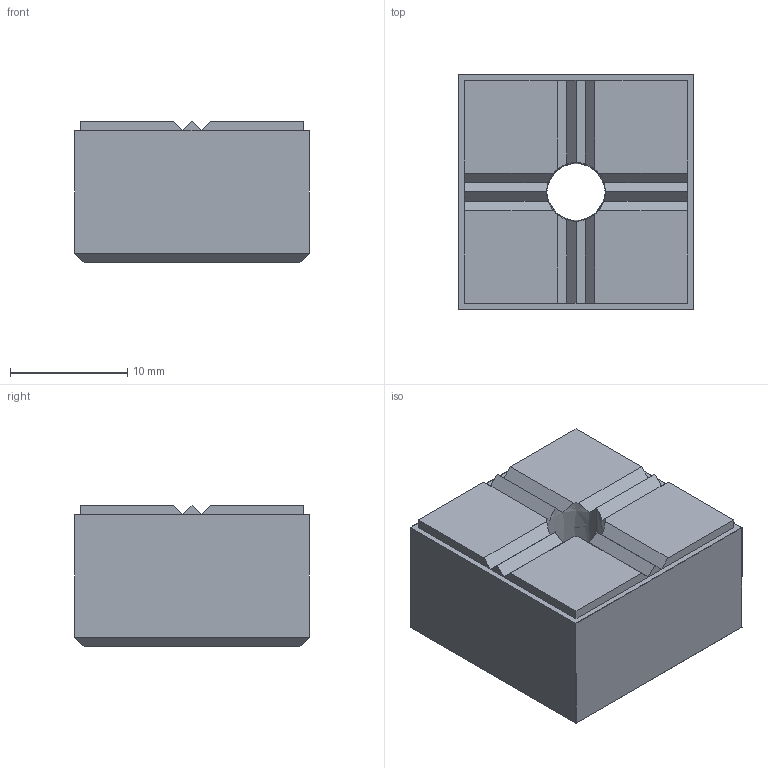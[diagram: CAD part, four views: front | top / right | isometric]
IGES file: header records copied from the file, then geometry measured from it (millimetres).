
Start section: SolidWorks IGES FILE using analytic representation for surfaces
Global section: file name: C:\WIX2\Positioning\3546\3546W006.igs; native system: SolidWorks 2003 by SolidWorks Corporation; preprocessor: Version 5.3; author: Joan; date: 030722.143907; units: millimetre
Bounding box: 20 x 20 x 12 mm (x, y, z)
Surface area: 1895 mm2 (no closed solid volume)
Topology: 0 solids, 0 shells, 44 faces, 270 edges, 270 vertices
Faces by surface type: bspline 42, revolution 2
